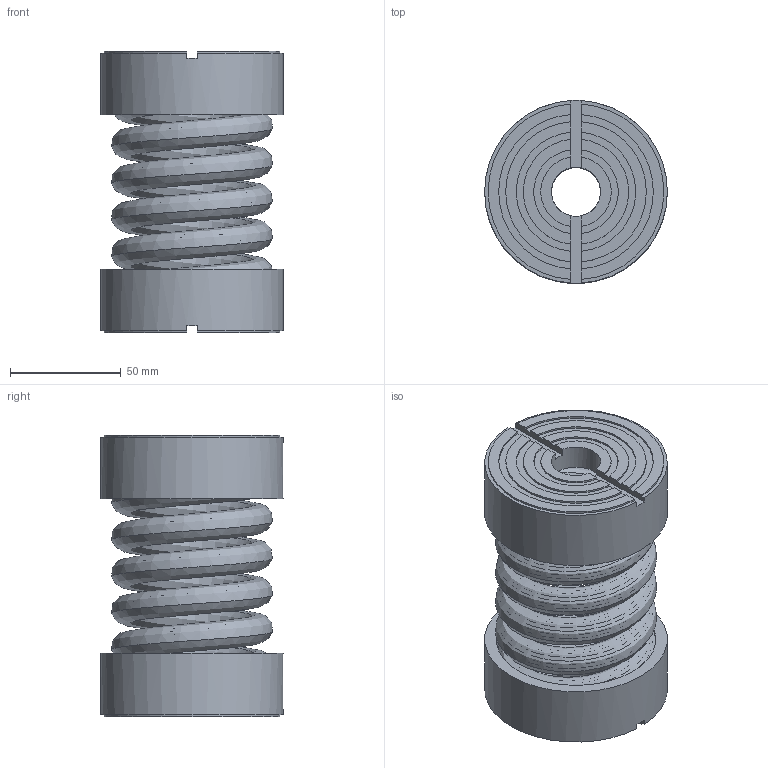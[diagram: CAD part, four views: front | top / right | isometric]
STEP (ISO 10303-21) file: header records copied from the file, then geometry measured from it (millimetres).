
FILE_DESCRIPTION(/* description */ (''),/* implementation_level */ '2;1');
FILE_NAME(/* name */ '\\Mleuckthor2\cad-proe_solids\WEBSITE FILES 05.22.13\STEP\IMF\IMF-C-2935.stp',/* time_stamp */ '2016-03-05T15:57:24-05:00',/* author */ ('rramoutar'),/* organization */ ('Mason Industries Inc.'),/* preprocessor_version */ 'ST-DEVELOPER v15.6',/* originating_system */ 'Autodesk Inventor 2015',/* authorisation */ '');
FILE_SCHEMA (('CONFIG_CONTROL_DESIGN'));
Length unit declared in the file: inch
Products named in the file (1): IMF-C-2935
Bounding box: 82.55 x 82.55 x 127 mm (x, y, z)
Volume: 185837.5 mm3; surface area: 163258 mm2
Topology: 5 solids, 7 shells, 128 faces, 342 edges, 228 vertices
Faces by surface type: plane 62, cylinder 44, bspline 22
Full cylindrical faces by diameter (mm): 22.225 x2, 29.369 x2, 30.162 x2, 72.231 x2, 73.025 x4, 82.55 x2
Entity records: 13781 total; most frequent: CARTESIAN_POINT 10523, ORIENTED_EDGE 648, DIRECTION 592, EDGE_CURVE 324, VERTEX_POINT 224, AXIS2_PLACEMENT_3D 209, LINE 174, VECTOR 174
